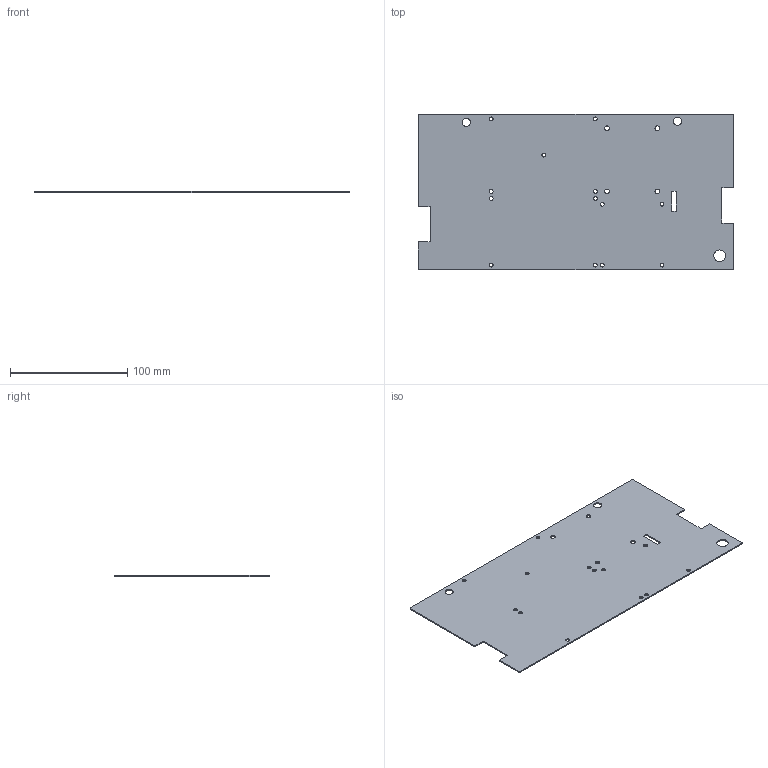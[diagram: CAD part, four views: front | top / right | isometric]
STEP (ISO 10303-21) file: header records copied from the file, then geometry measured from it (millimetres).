
FILE_DESCRIPTION(('FreeCAD Model'),'2;1');
FILE_NAME('Open CASCADE Shape Model','2021-12-19T00:38:48',('Author'),( ''),'Open CASCADE STEP processor 7.4','FreeCAD','Unknown');
FILE_SCHEMA(('AUTOMOTIVE_DESIGN { 1 0 10303 214 1 1 1 1 }'));
Length unit declared in the file: millimetre
Products named in the file (1): Unfold
Bounding box: 269.4 x 133 x 1 mm (x, y, z)
Volume: 34850.8 mm3; surface area: 70843 mm2
Topology: 1 solids, 1 shells, 42 faces, 120 edges, 80 vertices
Faces by surface type: cylinder 24, plane 18
Full cylindrical faces by diameter (mm): 3.2 x13, 4 x4, 7 x2, 10 x1
Entity records: 3110 total; most frequent: CARTESIAN_POINT 647, DIRECTION 450, LINE 244, VECTOR 244, ORIENTED_EDGE 240, PCURVE 240, DEFINITIONAL_REPRESENTATION 240, EDGE_CURVE 120
